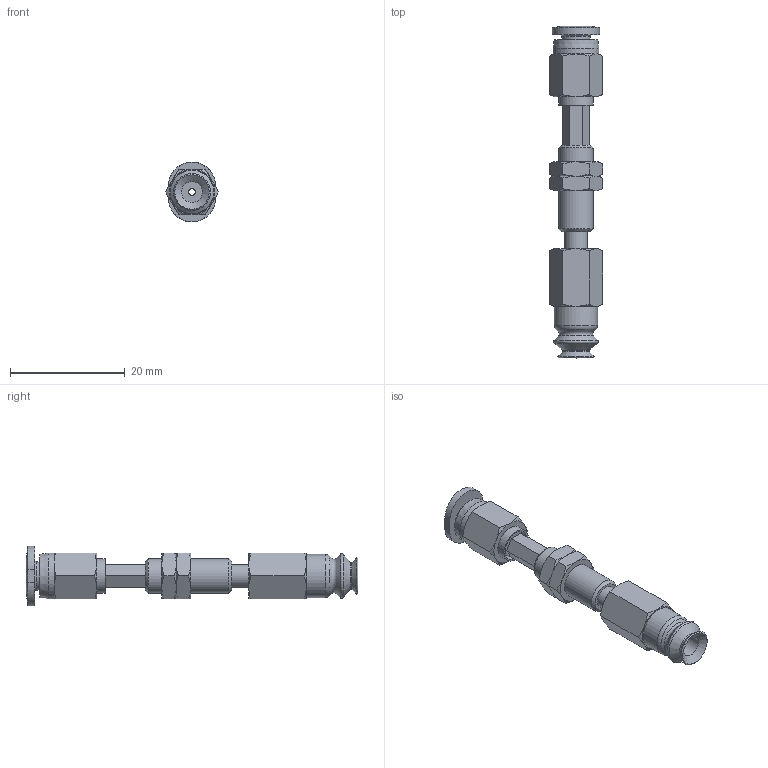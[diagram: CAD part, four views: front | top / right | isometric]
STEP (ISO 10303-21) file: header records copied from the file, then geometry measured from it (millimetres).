
FILE_DESCRIPTION(('STEP AP203'),'1');
FILE_NAME('-O.stp','2025-08-27T07:20:13',(' '),(' '),'Spatial InterOp 3D',' ',' ');
FILE_SCHEMA(('CONFIG_CONTROL_DESIGN'));
Length unit declared in the file: millimetre
Products named in the file (7): BNABPJTS-6-3-※-O; ADAPTER; NAPCTS-7-3-MBODY; NUT-NAPJ-6-3-s; NAPJTS-6-3-FBODY; BPJG-6-※; PC-C_04-M3
Assembly tree (7 placements, depth 2):
  BNABPJTS-6-3-※-O
    ADAPTER
    NAPCTS-7-3-MBODY
    NUT-NAPJ-6-3-s  x2
    NAPJTS-6-3-FBODY
    BPJG-6-※
    PC-C_04-M3
Bounding box: 9.24 x 57.77 x 10.4 mm (x, y, z)
Volume: 1481.8 mm3; surface area: 2963 mm2
Topology: 6 solids, 8 shells, 170 faces, 355 edges, 211 vertices
Faces by surface type: cone 67, plane 62, cylinder 23, torus 11, bspline 4, revolution 3
Full cylindrical faces by diameter (mm): 1.2 x2, 2.459 x1, 2.5 x2, 3 x1, 3.64 x1, 4 x4, 4.9 x1, 5.188 x2, 6 x4, 6.1 x1, 7.5 x1, 8 x1
Entity records: 4240 total; most frequent: CARTESIAN_POINT 1133, DIRECTION 581, ORIENTED_EDGE 488, AXIS2_PLACEMENT_3D 262, EDGE_CURVE 245, EDGE_LOOP 217, VERTEX_POINT 170, FACE_OUTER_BOUND 118
